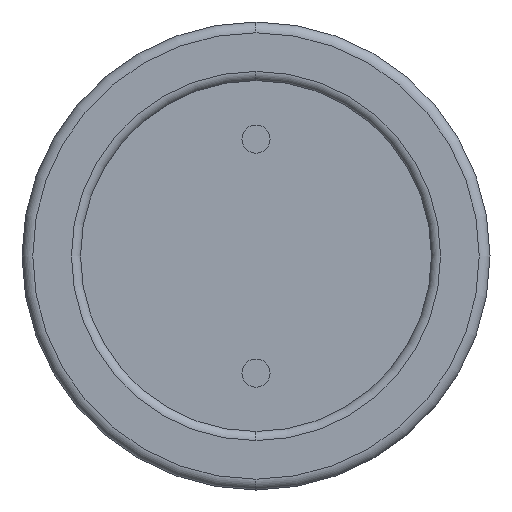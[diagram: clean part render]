
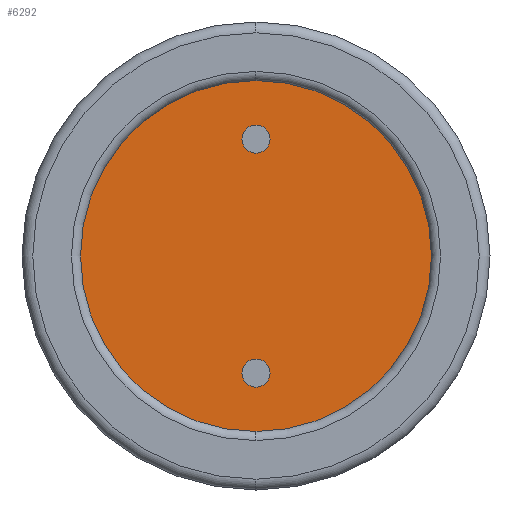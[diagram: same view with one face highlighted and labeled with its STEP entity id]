
A CAD part, left-side view. The second image highlights one B-rep face of the part: STEP entity #6292.
In plain terms, the highlighted planar face has unit normal (-1, 0, 0).
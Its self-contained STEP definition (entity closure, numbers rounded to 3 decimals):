
#40=CARTESIAN_POINT('',(-6.8,0.,0.002));
#41=DIRECTION('',(-1.,0.,0.));
#42=DIRECTION('',(0.,0.,-1.));
#43=AXIS2_PLACEMENT_3D('',#40,#41,#42);
#45=CARTESIAN_POINT('',(-6.8,0.,0.002));
#46=DIRECTION('',(1.,0.,0.));
#47=DIRECTION('',(0.,0.,-1.));
#48=AXIS2_PLACEMENT_3D('',#45,#46,#47);
#50=CARTESIAN_POINT('',(-6.8,0.,-2.5));
#51=DIRECTION('',(-1.,0.,0.));
#52=DIRECTION('',(0.,0.,-1.));
#53=AXIS2_PLACEMENT_3D('',#50,#51,#52);
#55=CARTESIAN_POINT('',(-6.8,0.,-2.5));
#56=DIRECTION('',(-1.,0.,0.));
#57=DIRECTION('',(0.,0.,1.));
#58=AXIS2_PLACEMENT_3D('',#55,#56,#57);
#60=CARTESIAN_POINT('',(-6.8,0.,2.5));
#61=DIRECTION('',(-1.,0.,0.));
#62=DIRECTION('',(0.,0.,-1.));
#63=AXIS2_PLACEMENT_3D('',#60,#61,#62);
#65=CARTESIAN_POINT('',(-6.8,0.,2.5));
#66=DIRECTION('',(-1.,0.,0.));
#67=DIRECTION('',(0.,0.,1.));
#68=AXIS2_PLACEMENT_3D('',#65,#66,#67);
#4745=CARTESIAN_POINT('',(-6.8,0.,-3.748));
#4746=VERTEX_POINT('',#4745);
#4747=CARTESIAN_POINT('',(-6.8,0.,3.752));
#4748=VERTEX_POINT('',#4747);
#4753=CARTESIAN_POINT('',(-6.8,0.,-2.8));
#4754=CARTESIAN_POINT('',(-6.8,0.,-2.2));
#4755=VERTEX_POINT('',#4753);
#4756=VERTEX_POINT('',#4754);
#4757=CARTESIAN_POINT('',(-6.8,0.,2.2));
#4758=CARTESIAN_POINT('',(-6.8,0.,2.8));
#4759=VERTEX_POINT('',#4757);
#4760=VERTEX_POINT('',#4758);
#6271=CARTESIAN_POINT('',(-6.8,0.,0.002));
#6272=DIRECTION('',(1.,0.,0.));
#6273=DIRECTION('',(0.,0.,1.));
#6274=AXIS2_PLACEMENT_3D('',#6271,#6272,#6273);
#6275=PLANE('',#6274);
#6276=ORIENTED_EDGE('',*,*,#6250,.F.);
#6277=ORIENTED_EDGE('',*,*,#6266,.T.);
#6278=EDGE_LOOP('',(#6276,#6277));
#6279=FACE_OUTER_BOUND('',#6278,.F.);
#6281=ORIENTED_EDGE('',*,*,#6280,.T.);
#6283=ORIENTED_EDGE('',*,*,#6282,.T.);
#6284=EDGE_LOOP('',(#6281,#6283));
#6285=FACE_BOUND('',#6284,.F.);
#6287=ORIENTED_EDGE('',*,*,#6286,.T.);
#6289=ORIENTED_EDGE('',*,*,#6288,.T.);
#6290=EDGE_LOOP('',(#6287,#6289));
#6291=FACE_BOUND('',#6290,.F.);
#6292=ADVANCED_FACE('',(#6279,#6285,#6291),#6275,.F.);
#44=CIRCLE('',#43,3.75);
#49=CIRCLE('',#48,3.75);
#54=CIRCLE('',#53,0.3);
#59=CIRCLE('',#58,0.3);
#64=CIRCLE('',#63,0.3);
#69=CIRCLE('',#68,0.3);
#6250=EDGE_CURVE('',#4746,#4748,#44,.T.);
#6266=EDGE_CURVE('',#4746,#4748,#49,.T.);
#6280=EDGE_CURVE('',#4755,#4756,#54,.T.);
#6282=EDGE_CURVE('',#4756,#4755,#59,.T.);
#6286=EDGE_CURVE('',#4759,#4760,#64,.T.);
#6288=EDGE_CURVE('',#4760,#4759,#69,.T.);
